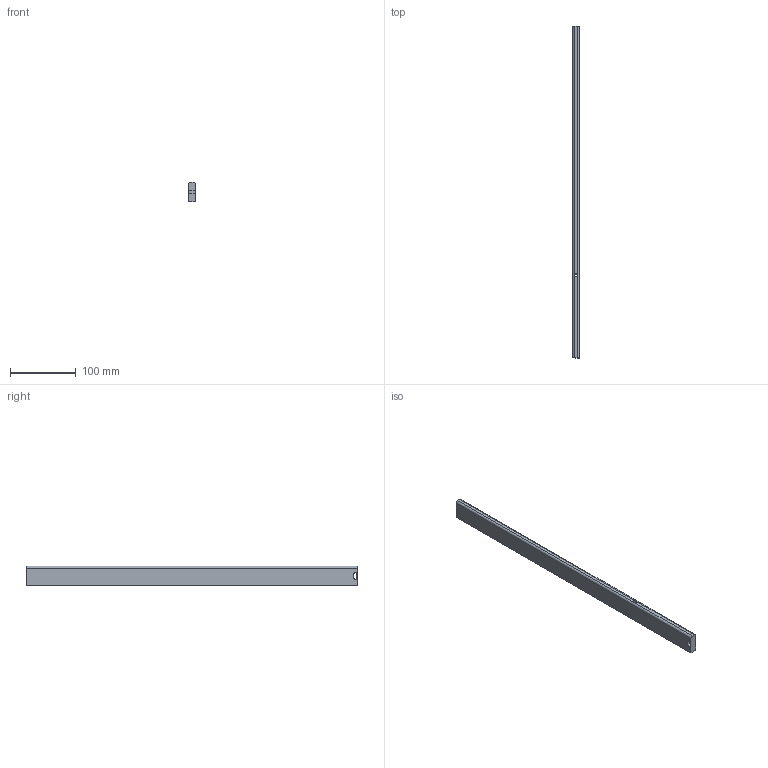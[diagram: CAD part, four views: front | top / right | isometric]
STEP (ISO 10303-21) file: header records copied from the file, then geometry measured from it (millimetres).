
FILE_DESCRIPTION (( 'STEP AP214' ), '1' );
FILE_NAME ('_Seitenreling_S760610200_RL505.step', '2010-09-06T14:51:47', ( 'grass' ), ( '' ), 'SwSTEP 2.0', 'SolidWorks 2010', '' );
FILE_SCHEMA (( 'AUTOMOTIVE_DESIGN' ));
Length unit declared in the file: millimetre
Products named in the file (1): _Seitenreling_S760610200_RL505
Bounding box: 10.5 x 505 x 30 mm (x, y, z)
Volume: 155736.6 mm3; surface area: 40945.8 mm2
Topology: 1 solids, 1 shells, 18 faces, 46 edges, 30 vertices
Faces by surface type: plane 10, cylinder 8
Entity records: 594 total; most frequent: DIRECTION 102, CARTESIAN_POINT 95, ORIENTED_EDGE 92, EDGE_CURVE 46, AXIS2_PLACEMENT_3D 37, VERTEX_POINT 30, LINE 28, VECTOR 28
